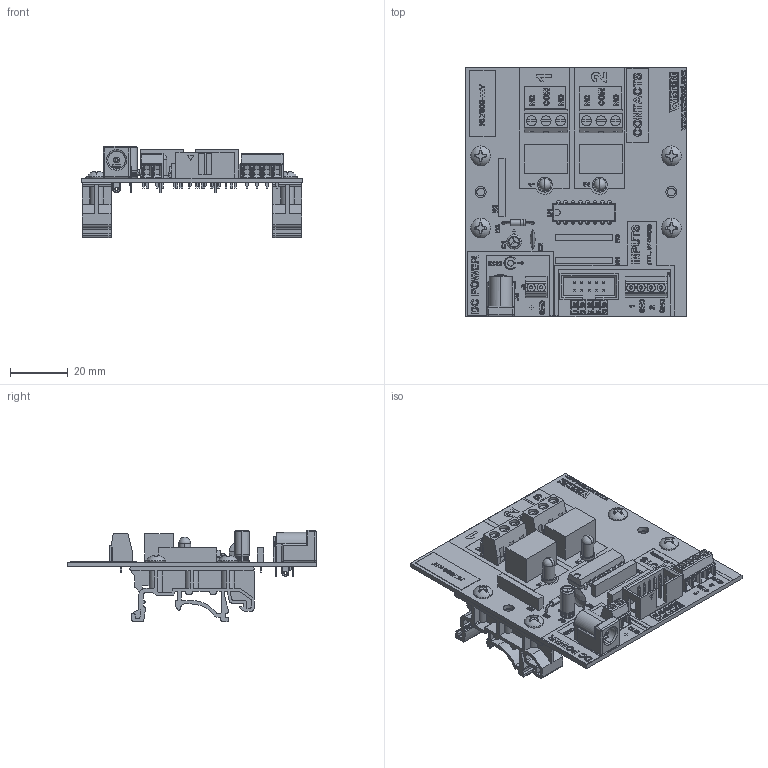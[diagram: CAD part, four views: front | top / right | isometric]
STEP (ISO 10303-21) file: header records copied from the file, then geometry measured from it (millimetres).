
FILE_DESCRIPTION (( 'STEP AP214' ), '1' );
FILE_NAME ('rly302-xxv-din_rev_c.step', '2022-07-20T16:55:51', ( '' ), ( '' ), 'SwSTEP 2.0', 'SolidWorks 2018', '' );
FILE_SCHEMA (( 'AUTOMOTIVE_DESIGN' ));
Length unit declared in the file: inch
Products named in the file (4): Screw_SCSMPP-6-0.375_90184A127; dinm01; rly302-xxv-din_rev_c; rly302_Board
Assembly tree (7 placements, depth 2):
  rly302-xxv-din_rev_c
    rly302_Board
    dinm01  x2
    Screw_SCSMPP-6-0.375_90184A127  x4
Bounding box: 76.2 x 86.36 x 31.57 mm (x, y, z)
Volume: 25007.6 mm3; surface area: 36627.3 mm2
Topology: 66 solids, 66 shells, 4570 faces, 12259 edges, 8053 vertices
Faces by surface type: plane 2877, cylinder 797, bspline 775, torus 60, cone 36, sphere 25
Entity records: 186822 total; most frequent: CARTESIAN_POINT 68094, ORIENTED_EDGE 21978, DIRECTION 16273, EDGE_CURVE 10989, LINE 7255, VECTOR 7255, VERTEX_POINT 7218, EDGE_LOOP 4661
